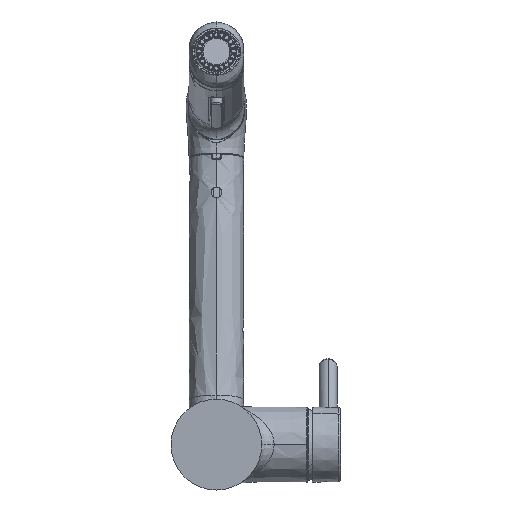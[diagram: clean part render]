
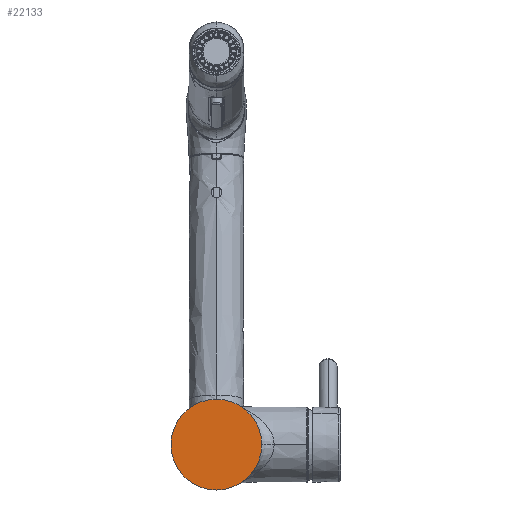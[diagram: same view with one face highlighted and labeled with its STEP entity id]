
A CAD part, front view. The second image highlights one B-rep face of the part: STEP entity #22133.
In plain terms, the highlighted planar face has unit normal (0, -1, 0).
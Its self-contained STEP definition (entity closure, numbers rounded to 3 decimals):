
#18=CARTESIAN_POINT('',(0.,0.,0.));
#19=DIRECTION('',(0.,-1.,0.));
#20=DIRECTION('',(1.,0.,0.));
#21=AXIS2_PLACEMENT_3D('',#18,#19,#20);
#28=CARTESIAN_POINT('',(0.,0.,0.));
#29=DIRECTION('',(0.,1.,0.));
#30=DIRECTION('',(1.,0.,0.));
#31=AXIS2_PLACEMENT_3D('',#28,#29,#30);
#19782=CARTESIAN_POINT('',(25.35,0.,0.));
#19783=CARTESIAN_POINT('',(-25.35,0.,0.));
#19784=VERTEX_POINT('',#19782);
#19785=VERTEX_POINT('',#19783);
#22122=CARTESIAN_POINT('',(0.,0.,0.));
#22123=DIRECTION('',(0.,1.,0.));
#22124=DIRECTION('',(1.,0.,0.));
#22125=AXIS2_PLACEMENT_3D('',#22122,#22123,#22124);
#22126=PLANE('',#22125);
#22128=ORIENTED_EDGE('',*,*,#22127,.F.);
#22130=ORIENTED_EDGE('',*,*,#22129,.T.);
#22131=EDGE_LOOP('',(#22128,#22130));
#22132=FACE_OUTER_BOUND('',#22131,.F.);
#22133=ADVANCED_FACE('',(#22132),#22126,.F.);
#22=CIRCLE('',#21,25.35);
#32=CIRCLE('',#31,25.35);
#22127=EDGE_CURVE('',#19784,#19785,#22,.T.);
#22129=EDGE_CURVE('',#19784,#19785,#32,.T.);
